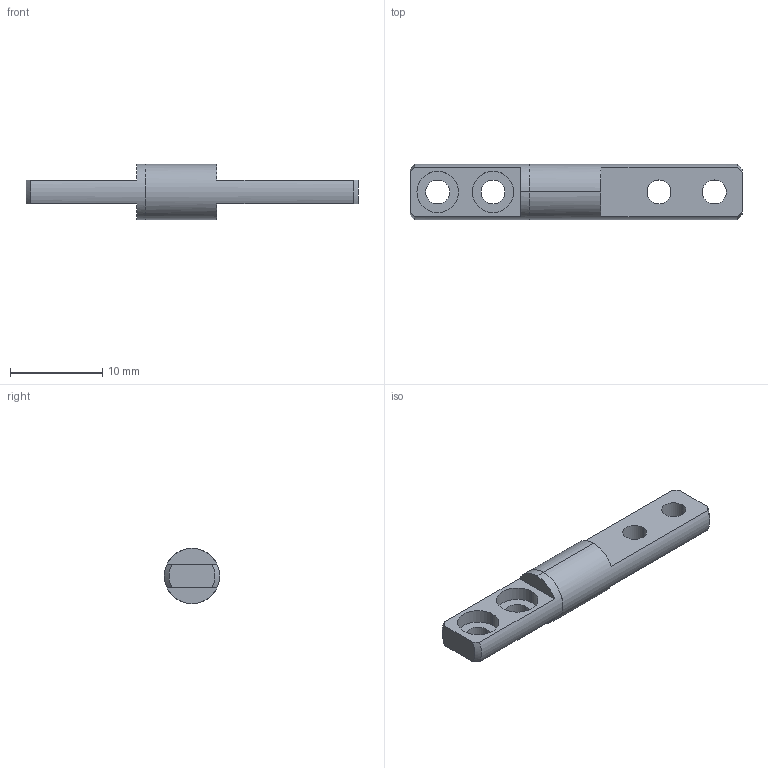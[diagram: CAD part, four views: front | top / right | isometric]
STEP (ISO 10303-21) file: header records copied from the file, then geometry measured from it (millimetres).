
FILE_DESCRIPTION (( 'STEP AP203' ), '1' );
FILE_NAME ('XG11-076-3沉孔.STEP', '2025-07-23T08:05:48', ( '微软用户' ), ( '微软中国' ), 'SwSTEP 2.0', 'SolidWorks 2024', '' );
FILE_SCHEMA (( 'CONFIG_CONTROL_DESIGN' ));
Length unit declared in the file: millimetre
Products named in the file (1): XG11-076-3沉孔
Bounding box: 36 x 6 x 6 mm (x, y, z)
Volume: 569.8 mm3; surface area: 775.3 mm2
Topology: 2 solids, 2 shells, 34 faces, 84 edges, 56 vertices
Faces by surface type: cylinder 16, plane 14, cone 4
Entity records: 1131 total; most frequent: CARTESIAN_POINT 199, DIRECTION 190, ORIENTED_EDGE 168, EDGE_CURVE 84, AXIS2_PLACEMENT_3D 79, VERTEX_POINT 56, EDGE_LOOP 44, CIRCLE 44
